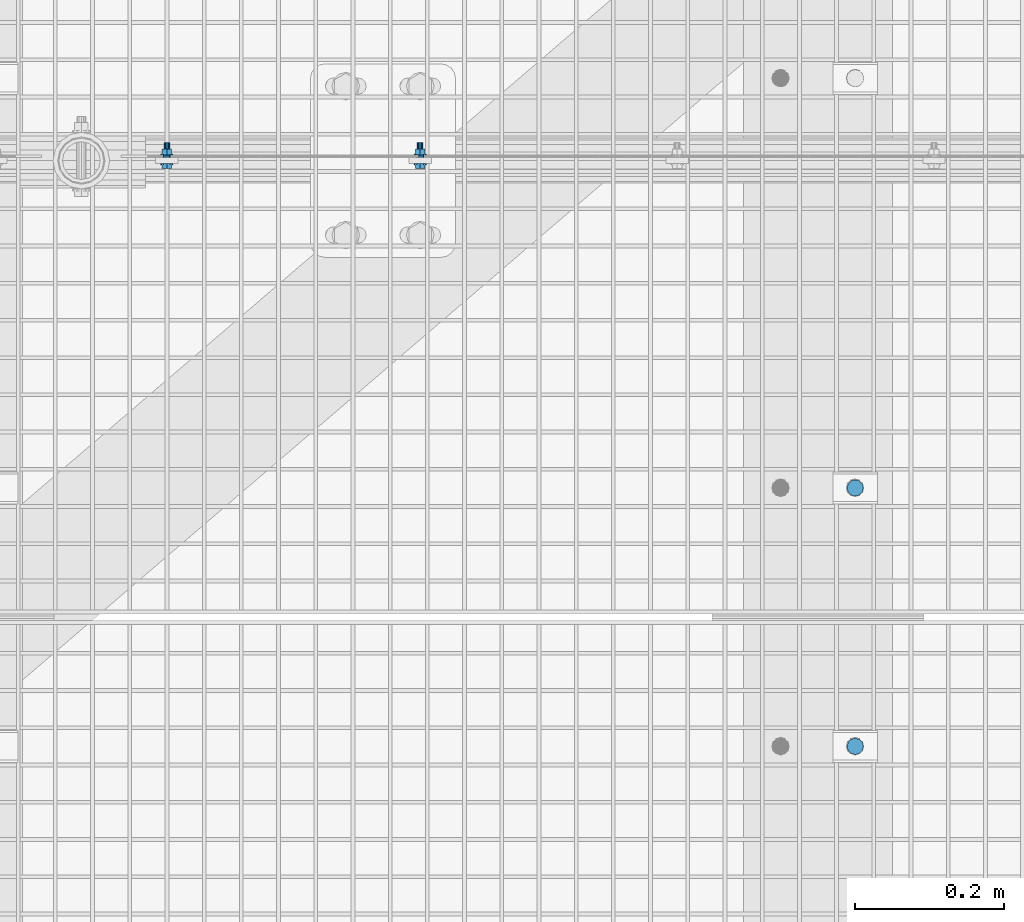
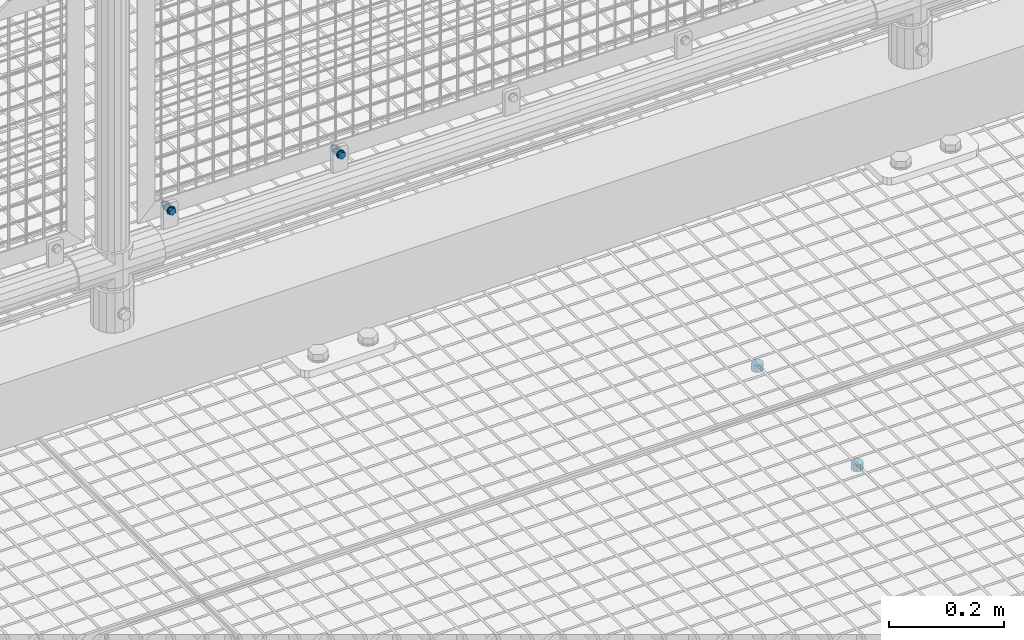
# One storey, part 82 of 1530: 4 mechanical fasteners.
"""IFC2X3 building model written with IfcOpenShell, lengths in millimetres."""

from ifc_helpers import new_model, si_unit, frame, origin_with_axes, place, context, subcontext, project, spatial, faceted_brep, source, transform, mapped, material, type_object, element, save


model = new_model("IFC2X3")

# Units and contexts
model_context = context("Model", 3, precision=1e-05, world=origin_with_axes())
body_context = subcontext(model_context, "Body", "Model", "MODEL_VIEW")
ifc_project = project(units=[si_unit("LENGTHUNIT", "METRE", prefix="MILLI"), si_unit("AREAUNIT", "SQUARE_METRE"), si_unit("VOLUMEUNIT", "CUBIC_METRE"), si_unit("MASSUNIT", "GRAM", prefix="KILO"), si_unit("TIMEUNIT", "SECOND"), si_unit("PLANEANGLEUNIT", "RADIAN"), si_unit("SOLIDANGLEUNIT", "STERADIAN"), si_unit("THERMODYNAMICTEMPERATUREUNIT", "DEGREE_CELSIUS"), si_unit("LUMINOUSINTENSITYUNIT", "LUMEN")], contexts=[model_context])

# Site, building, storey
site_placement = place(None, origin_with_axes())
site = spatial("IfcSite", under=ifc_project, at=site_placement, Name="Brattvåg", CompositionType="ELEMENT")
building_placement = place(site_placement, origin_with_axes())
building = spatial("IfcBuilding", under=site, at=building_placement, Name="Undefined", CompositionType="ELEMENT")
storey_placement = place(building_placement, origin_with_axes())
storey = spatial("IfcBuildingStorey", under=building, at=storey_placement, Name="Undefined", CompositionType="ELEMENT", Elevation=0.0)

# Mechanical fasteners
ifc_material = material(Name="8")
mechanical_fastener_type = type_object("IfcMechanicalFastenerType", Name="Bolt assembly")
shared_shape_1 = source(origin_with_axes(), body_context, "Body", "Brep", [
    faceted_brep([(11.0, -4.99999999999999, 0.0), (9.52627944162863, -4.99999999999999, 5.50000000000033), (5.49999999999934, -4.99999999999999, 9.5262794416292), (-1.13996957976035e-12, -4.99999999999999, 11.0), (-5.50000000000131, -4.99999999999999, 9.52627944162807), (-9.52627944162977, -4.99999999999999, 5.49999999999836), (-11.0, -4.99999999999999, -2.27993915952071e-12), (-9.5262794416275, -4.99999999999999, -5.5000000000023), (-5.49999999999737, -4.99999999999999, -9.52627944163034), (3.40769628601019e-12, -4.99999999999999, -11.0), (5.50000000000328, -4.99999999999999, -9.52627944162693), (9.52627944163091, -4.99999999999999, -5.49999999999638), (9.52627944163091, 10.1, -5.49999999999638), (5.50000000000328, 10.1, -9.52627944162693), (3.40769628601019e-12, 10.1, -11.0), (-5.49999999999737, 10.1, -9.52627944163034), (-9.5262794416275, 10.1, -5.5000000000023), (-11.0, 10.1, -2.27993915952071e-12), (-9.52627944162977, 10.1, 5.49999999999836), (-5.50000000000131, 10.1, 9.52627944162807), (-1.13996957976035e-12, 10.1, 11.0), (5.49999999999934, 10.1, 9.5262794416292), (9.52627944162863, 10.1, 5.50000000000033), (11.0, 10.1, 0.0)], [[[0, 1, 2, 3, 4, 5, 6, 7, 8, 9, 10, 11]], [[12, 13, 14, 15, 16, 17, 18, 19, 20, 21, 22, 23]], [[0, 23, 22, 1]], [[1, 22, 21, 2]], [[2, 21, 20, 3]], [[3, 20, 19, 4]], [[4, 19, 18, 5]], [[5, 18, 17, 6]], [[6, 17, 16, 7]], [[7, 16, 15, 8]], [[8, 15, 14, 9]], [[9, 14, 13, 10]], [[10, 13, 12, 11]], [[11, 12, 23, 0]]]),
])
for number, where, z_axis, x_axis, name in (
    (1, (6460.01192543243, 7224.99, -35.0), (0.0, -1.0, 0.0), (-1.0, 1.99999855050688e-09, 0.0), "Bolt assembly"),
    (2, (6460.01456069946, 6877.99565124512, -35.0), (0.0, -1.0, 0.0), (-1.0, 1.99999855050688e-09, 0.0), "Bolt assembly"),
):
    element("IfcMechanicalFastener", number, at=place(storey_placement, frame(where, z_axis=z_axis, x_axis=x_axis)), inside=storey, type_object=mechanical_fastener_type, material=ifc_material, Name=name, NominalDiameter=20.0, NominalLength=15.0, context=body_context, shape_type="MappedRepresentation", body=[
        mapped(shared_shape_1, transform((0.0, 0.0, 0.0))),
    ])
shared_shape_2 = source(origin_with_axes(), body_context, "Body", "Brep", [
    faceted_brep([(7.50555349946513, -6.899000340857, 0.0), (3.75277674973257, -6.899000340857, 6.5), (-3.75277674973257, -6.899000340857, 6.5), (-7.50555349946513, -6.899000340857, 9.19165206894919e-16), (-3.75277674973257, -6.899000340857, -6.5), (3.75277674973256, -6.899000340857, -6.5), (3.75277674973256, -1.59900015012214, -6.5), (-3.75277674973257, -1.59900015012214, -6.5), (-7.50555349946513, -1.59900015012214, 9.19165206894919e-16), (-3.75277674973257, -1.59900015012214, 6.5), (3.75277674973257, -1.59900015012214, 6.5), (7.50555349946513, -1.59900015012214, 0.0), (4.0, -1.59900015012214, 0.0), (3.46410161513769, -1.59900015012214, 2.00000000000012), (1.99999999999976, -1.59900015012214, 3.46410161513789), (-4.14534392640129e-13, -1.59900015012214, 4.0), (-2.00000000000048, -1.59900015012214, 3.46410161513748), (-3.4641016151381, -1.59900015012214, 1.9999999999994), (-4.0, -1.59900015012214, -8.29068785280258e-13), (-3.46410161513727, -1.59900015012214, -2.00000000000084), (-1.99999999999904, -1.59900015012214, -3.46410161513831), (1.23916228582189e-12, -1.59900015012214, -4.0), (2.00000000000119, -1.59900015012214, -3.46410161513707), (3.46410161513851, -1.59900015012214, -1.99999999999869), (3.46410161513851, 28.4009998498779, -1.99999999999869), (2.00000000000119, 28.4009998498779, -3.46410161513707), (1.23916228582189e-12, 28.4009998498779, -4.0), (-1.99999999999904, 28.4009998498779, -3.46410161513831), (-3.46410161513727, 28.4009998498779, -2.00000000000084), (-4.0, 28.4009998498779, -8.29068785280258e-13), (-3.4641016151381, 28.4009998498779, 1.9999999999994), (-2.00000000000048, 28.4009998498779, 3.46410161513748), (-4.14534392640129e-13, 28.4009998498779, 4.0), (1.99999999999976, 28.4009998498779, 3.46410161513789), (3.46410161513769, 28.4009998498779, 2.00000000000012), (4.0, 28.4009998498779, 0.0), (8.5, -1.59900015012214, 0.0), (7.36121593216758, -1.59900015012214, 4.25000000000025), (4.24999999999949, -1.59900015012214, 7.36121593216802), (-8.80885584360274e-13, -1.59900015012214, 8.5), (-4.25000000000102, -1.59900015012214, 7.36121593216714), (-7.36121593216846, -1.59900015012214, 4.24999999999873), (-8.5, -1.59900015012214, -1.76177116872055e-12), (-7.3612159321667, -1.59900015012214, -4.25000000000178), (-4.24999999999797, -1.59900015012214, -7.3612159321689), (2.63321985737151e-12, -1.59900015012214, -8.5), (4.25000000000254, -1.59900015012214, -7.36121593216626), (7.36121593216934, -1.59900015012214, -4.24999999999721), (7.36121593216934, 0.000999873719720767, -4.24999999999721), (4.25000000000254, 0.000999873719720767, -7.36121593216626), (2.63321985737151e-12, 0.000999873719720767, -8.5), (-4.24999999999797, 0.000999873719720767, -7.3612159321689), (-7.3612159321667, 0.000999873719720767, -4.25000000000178), (-8.5, 0.000999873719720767, -1.76177116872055e-12), (-7.36121593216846, 0.000999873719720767, 4.24999999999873), (-4.25000000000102, 0.000999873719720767, 7.36121593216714), (-8.80885584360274e-13, 0.000999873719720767, 8.5), (4.24999999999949, 0.000999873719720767, 7.36121593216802), (7.36121593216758, 0.000999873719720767, 4.25000000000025), (8.5, 0.000999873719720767, 0.0), (8.5, 11.5044159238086, 0.0), (7.36121593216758, 11.5044159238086, 4.25000000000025), (4.24999999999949, 11.5044159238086, 7.36121593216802), (-8.80885584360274e-13, 11.5044159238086, 8.5), (-4.25000000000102, 11.5044159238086, 7.36121593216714), (-7.36121593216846, 11.5044159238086, 4.24999999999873), (-8.5, 11.5044159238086, -1.76177116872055e-12), (-7.3612159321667, 11.5044159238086, -4.25000000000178), (-4.24999999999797, 11.5044159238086, -7.3612159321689), (2.63321985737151e-12, 11.5044159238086, -8.5), (4.25000000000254, 11.5044159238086, -7.36121593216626), (7.36121593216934, 11.5044159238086, -4.24999999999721), (7.36121593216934, 13.1044159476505, -4.24999999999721), (4.25000000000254, 13.1044159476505, -7.36121593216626), (2.63321985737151e-12, 13.1044159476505, -8.5), (-4.24999999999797, 13.1044159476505, -7.3612159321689), (-7.3612159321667, 13.1044159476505, -4.25000000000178), (-8.5, 13.1044159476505, -1.76177116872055e-12), (-7.36121593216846, 13.1044159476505, 4.24999999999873), (-4.25000000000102, 13.1044159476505, 7.36121593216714), (-8.80885584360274e-13, 13.1044159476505, 8.5), (4.24999999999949, 13.1044159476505, 7.36121593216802), (7.36121593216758, 13.1044159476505, 4.25000000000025), (8.5, 13.1044159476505, 0.0), (7.50555349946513, 13.1044159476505, 0.0), (3.75277674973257, 13.1044159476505, 6.5), (-3.75277674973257, 13.1044159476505, 6.5), (-7.50555349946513, 13.1044159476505, 9.19165206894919e-16), (-3.75277674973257, 13.1044159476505, -6.5), (3.75277674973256, 13.1044159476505, -6.5), (3.75277674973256, 19.9044161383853, -6.5), (-3.75277674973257, 19.9044161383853, -6.5), (-7.50555349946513, 19.9044161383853, 9.19165206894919e-16), (-3.75277674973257, 19.9044161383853, 6.5), (3.75277674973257, 19.9044161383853, 6.5), (7.50555349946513, 19.9044161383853, 0.0)], [[[0, 1, 2, 3, 4, 5]], [[6, 7, 8, 9, 10, 11]], [[0, 11, 10, 1]], [[1, 10, 9, 2]], [[2, 9, 8, 3]], [[3, 8, 7, 4]], [[4, 7, 6, 5]], [[5, 6, 11, 0]], [[12, 13, 14, 15, 16, 17, 18, 19, 20, 21, 22, 23]], [[24, 25, 26, 27, 28, 29, 30, 31, 32, 33, 34, 35]], [[12, 35, 34, 13]], [[13, 34, 33, 14]], [[14, 33, 32, 15]], [[15, 32, 31, 16]], [[16, 31, 30, 17]], [[17, 30, 29, 18]], [[18, 29, 28, 19]], [[19, 28, 27, 20]], [[20, 27, 26, 21]], [[21, 26, 25, 22]], [[22, 25, 24, 23]], [[23, 24, 35, 12]], [[36, 37, 38, 39, 40, 41, 42, 43, 44, 45, 46, 47]], [[48, 49, 50, 51, 52, 53, 54, 55, 56, 57, 58, 59]], [[36, 59, 58, 37]], [[37, 58, 57, 38]], [[38, 57, 56, 39]], [[39, 56, 55, 40]], [[40, 55, 54, 41]], [[41, 54, 53, 42]], [[42, 53, 52, 43]], [[43, 52, 51, 44]], [[44, 51, 50, 45]], [[45, 50, 49, 46]], [[46, 49, 48, 47]], [[47, 48, 59, 36]], [[60, 61, 62, 63, 64, 65, 66, 67, 68, 69, 70, 71]], [[72, 73, 74, 75, 76, 77, 78, 79, 80, 81, 82, 83]], [[60, 83, 82, 61]], [[61, 82, 81, 62]], [[62, 81, 80, 63]], [[63, 80, 79, 64]], [[64, 79, 78, 65]], [[65, 78, 77, 66]], [[66, 77, 76, 67]], [[67, 76, 75, 68]], [[68, 75, 74, 69]], [[69, 74, 73, 70]], [[70, 73, 72, 71]], [[71, 72, 83, 60]], [[84, 85, 86, 87, 88, 89]], [[90, 91, 92, 93, 94, 95]], [[84, 95, 94, 85]], [[85, 94, 93, 86]], [[86, 93, 92, 87]], [[87, 92, 91, 88]], [[88, 91, 90, 89]], [[89, 90, 95, 84]]]),
    faceted_brep([(5.0, 0.100999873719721, 0.0), (4.33012701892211, 0.100999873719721, 2.50000000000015), (2.4999999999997, 0.100999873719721, 4.33012701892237), (-5.18167990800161e-13, 0.100999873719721, 5.0), (-2.5000000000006, 0.100999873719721, 4.33012701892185), (-4.33012701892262, 0.100999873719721, 2.49999999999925), (-5.0, 0.100999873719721, -1.03633598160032e-12), (-4.33012701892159, 0.100999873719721, -2.50000000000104), (-2.49999999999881, 0.100999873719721, -4.33012701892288), (1.54895285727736e-12, 0.100999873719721, -5.0), (2.50000000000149, 0.100999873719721, -4.33012701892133), (4.33012701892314, 0.100999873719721, -2.49999999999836), (4.33012701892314, 8.10099988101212, -2.49999999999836), (2.50000000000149, 8.10099988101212, -4.33012701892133), (1.54895285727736e-12, 8.10099988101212, -5.0), (-2.49999999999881, 8.10099988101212, -4.33012701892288), (-4.33012701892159, 8.10099988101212, -2.50000000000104), (-5.0, 8.10099988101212, -1.03633598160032e-12), (-4.33012701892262, 8.10099988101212, 2.49999999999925), (-2.5000000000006, 8.10099988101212, 4.33012701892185), (-5.18167990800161e-13, 8.10099988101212, 5.0), (2.4999999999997, 8.10099988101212, 4.33012701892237), (4.33012701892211, 8.10099988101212, 2.50000000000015), (5.0, 8.10099988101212, 0.0), (5.0, 8.40441592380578, 0.0), (4.33012701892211, 8.40441592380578, 2.50000000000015), (2.4999999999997, 8.40441592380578, 4.33012701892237), (-5.18167990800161e-13, 8.40441592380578, 5.0), (-2.5000000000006, 8.40441592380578, 4.33012701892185), (-4.33012701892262, 8.40441592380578, 2.49999999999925), (-5.0, 8.40441592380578, -1.03633598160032e-12), (-4.33012701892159, 8.40441592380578, -2.50000000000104), (-2.49999999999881, 8.40441592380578, -4.33012701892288), (1.54895285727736e-12, 8.40441592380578, -5.0), (2.50000000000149, 8.40441592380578, -4.33012701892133), (4.33012701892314, 8.40441592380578, -2.49999999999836), (4.33012701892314, 11.5044159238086, -2.49999999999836), (2.50000000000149, 11.5044159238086, -4.33012701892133), (1.54895285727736e-12, 11.5044159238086, -5.0), (-2.49999999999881, 11.5044159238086, -4.33012701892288), (-4.33012701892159, 11.5044159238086, -2.50000000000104), (-5.0, 11.5044159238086, -1.03633598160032e-12), (-4.33012701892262, 11.5044159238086, 2.49999999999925), (-2.5000000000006, 11.5044159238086, 4.33012701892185), (-5.18167990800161e-13, 11.5044159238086, 5.0), (2.4999999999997, 11.5044159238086, 4.33012701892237), (4.33012701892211, 11.5044159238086, 2.50000000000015), (5.0, 11.5044159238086, 0.0)], [[[0, 1, 2, 3, 4, 5, 6, 7, 8, 9, 10, 11]], [[12, 13, 14, 15, 16, 17, 18, 19, 20, 21, 22, 23]], [[0, 23, 22, 1]], [[1, 22, 21, 2]], [[2, 21, 20, 3]], [[3, 20, 19, 4]], [[4, 19, 18, 5]], [[5, 18, 17, 6]], [[6, 17, 16, 7]], [[7, 16, 15, 8]], [[8, 15, 14, 9]], [[9, 14, 13, 10]], [[10, 13, 12, 11]], [[11, 12, 23, 0]], [[24, 25, 26, 27, 28, 29, 30, 31, 32, 33, 34, 35]], [[36, 37, 38, 39, 40, 41, 42, 43, 44, 45, 46, 47]], [[24, 47, 46, 25]], [[25, 46, 45, 26]], [[26, 45, 44, 27]], [[27, 44, 43, 28]], [[28, 43, 42, 29]], [[29, 42, 41, 30]], [[30, 41, 40, 31]], [[31, 40, 39, 32]], [[32, 39, 38, 33]], [[33, 38, 37, 34]], [[34, 37, 36, 35]], [[35, 36, 47, 24]]]),
])
mechanical_fastener_1_placement = place(storey_placement, frame((5535.85060882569, 7660.49843978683, 352.299672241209), z_axis=(-1.0, 1.99999855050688e-09, 0.0), x_axis=(0.0, 0.0, 1.0)))
element("IfcMechanicalFastener", 3, at=mechanical_fastener_1_placement, inside=storey, type_object=mechanical_fastener_type, material=ifc_material, Name="Bolt assembly", NominalDiameter=8.0, NominalLength=30.0, context=body_context, shape_type="MappedRepresentation", body=[
    mapped(shared_shape_2, transform((0.0, 0.0, 0.0))),
])
shared_shape_3 = source(origin_with_axes(), body_context, "Body", "Brep", [
    faceted_brep([(7.50555349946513, -6.899000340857, 0.0), (3.75277674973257, -6.899000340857, 6.5), (-3.75277674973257, -6.899000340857, 6.5), (-7.50555349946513, -6.899000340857, 9.19165206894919e-16), (-3.75277674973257, -6.899000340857, -6.5), (3.75277674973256, -6.899000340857, -6.5), (3.75277674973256, -1.59900015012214, -6.5), (-3.75277674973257, -1.59900015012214, -6.5), (-7.50555349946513, -1.59900015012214, 9.19165206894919e-16), (-3.75277674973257, -1.59900015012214, 6.5), (3.75277674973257, -1.59900015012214, 6.5), (7.50555349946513, -1.59900015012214, 0.0), (4.0, -1.59900015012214, 0.0), (3.46410161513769, -1.59900015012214, 2.00000000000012), (1.99999999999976, -1.59900015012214, 3.46410161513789), (-4.14534392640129e-13, -1.59900015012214, 4.0), (-2.00000000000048, -1.59900015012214, 3.46410161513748), (-3.4641016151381, -1.59900015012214, 1.9999999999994), (-4.0, -1.59900015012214, -8.29068785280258e-13), (-3.46410161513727, -1.59900015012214, -2.00000000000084), (-1.99999999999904, -1.59900015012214, -3.46410161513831), (1.23916228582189e-12, -1.59900015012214, -4.0), (2.00000000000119, -1.59900015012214, -3.46410161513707), (3.46410161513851, -1.59900015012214, -1.99999999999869), (3.46410161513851, 28.4009998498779, -1.99999999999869), (2.00000000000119, 28.4009998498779, -3.46410161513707), (1.23916228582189e-12, 28.4009998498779, -4.0), (-1.99999999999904, 28.4009998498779, -3.46410161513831), (-3.46410161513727, 28.4009998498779, -2.00000000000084), (-4.0, 28.4009998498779, -8.29068785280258e-13), (-3.4641016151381, 28.4009998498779, 1.9999999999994), (-2.00000000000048, 28.4009998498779, 3.46410161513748), (-4.14534392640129e-13, 28.4009998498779, 4.0), (1.99999999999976, 28.4009998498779, 3.46410161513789), (3.46410161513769, 28.4009998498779, 2.00000000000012), (4.0, 28.4009998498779, 0.0), (8.5, -1.59900015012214, 0.0), (7.36121593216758, -1.59900015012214, 4.25000000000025), (4.24999999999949, -1.59900015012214, 7.36121593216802), (-8.80885584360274e-13, -1.59900015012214, 8.5), (-4.25000000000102, -1.59900015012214, 7.36121593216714), (-7.36121593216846, -1.59900015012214, 4.24999999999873), (-8.5, -1.59900015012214, -1.76177116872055e-12), (-7.3612159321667, -1.59900015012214, -4.25000000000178), (-4.24999999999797, -1.59900015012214, -7.3612159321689), (2.63321985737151e-12, -1.59900015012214, -8.5), (4.25000000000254, -1.59900015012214, -7.36121593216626), (7.36121593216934, -1.59900015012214, -4.24999999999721), (7.36121593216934, 0.000999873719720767, -4.24999999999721), (4.25000000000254, 0.000999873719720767, -7.36121593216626), (2.63321985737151e-12, 0.000999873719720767, -8.5), (-4.24999999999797, 0.000999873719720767, -7.3612159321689), (-7.3612159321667, 0.000999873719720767, -4.25000000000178), (-8.5, 0.000999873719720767, -1.76177116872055e-12), (-7.36121593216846, 0.000999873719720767, 4.24999999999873), (-4.25000000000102, 0.000999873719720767, 7.36121593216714), (-8.80885584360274e-13, 0.000999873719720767, 8.5), (4.24999999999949, 0.000999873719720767, 7.36121593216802), (7.36121593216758, 0.000999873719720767, 4.25000000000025), (8.5, 0.000999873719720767, 0.0), (8.5, 11.5039814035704, 0.0), (7.36121593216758, 11.5039814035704, 4.25000000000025), (4.24999999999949, 11.5039814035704, 7.36121593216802), (-8.80885584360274e-13, 11.5039814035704, 8.5), (-4.25000000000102, 11.5039814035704, 7.36121593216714), (-7.36121593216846, 11.5039814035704, 4.24999999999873), (-8.5, 11.5039814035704, -1.76177116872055e-12), (-7.3612159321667, 11.5039814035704, -4.25000000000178), (-4.24999999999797, 11.5039814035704, -7.3612159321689), (2.63321985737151e-12, 11.5039814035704, -8.5), (4.25000000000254, 11.5039814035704, -7.36121593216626), (7.36121593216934, 11.5039814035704, -4.24999999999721), (7.36121593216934, 13.1039814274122, -4.24999999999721), (4.25000000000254, 13.1039814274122, -7.36121593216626), (2.63321985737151e-12, 13.1039814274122, -8.5), (-4.24999999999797, 13.1039814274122, -7.3612159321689), (-7.3612159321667, 13.1039814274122, -4.25000000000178), (-8.5, 13.1039814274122, -1.76177116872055e-12), (-7.36121593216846, 13.1039814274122, 4.24999999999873), (-4.25000000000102, 13.1039814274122, 7.36121593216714), (-8.80885584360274e-13, 13.1039814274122, 8.5), (4.24999999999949, 13.1039814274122, 7.36121593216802), (7.36121593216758, 13.1039814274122, 4.25000000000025), (8.5, 13.1039814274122, 0.0), (7.50555349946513, 13.1039814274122, 0.0), (3.75277674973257, 13.1039814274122, 6.5), (-3.75277674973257, 13.1039814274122, 6.5), (-7.50555349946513, 13.1039814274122, 9.19165206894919e-16), (-3.75277674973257, 13.1039814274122, -6.5), (3.75277674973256, 13.1039814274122, -6.5), (3.75277674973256, 19.9039816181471, -6.5), (-3.75277674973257, 19.9039816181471, -6.5), (-7.50555349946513, 19.9039816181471, 9.19165206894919e-16), (-3.75277674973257, 19.9039816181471, 6.5), (3.75277674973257, 19.9039816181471, 6.5), (7.50555349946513, 19.9039816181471, 0.0)], [[[0, 1, 2, 3, 4, 5]], [[6, 7, 8, 9, 10, 11]], [[0, 11, 10, 1]], [[1, 10, 9, 2]], [[2, 9, 8, 3]], [[3, 8, 7, 4]], [[4, 7, 6, 5]], [[5, 6, 11, 0]], [[12, 13, 14, 15, 16, 17, 18, 19, 20, 21, 22, 23]], [[24, 25, 26, 27, 28, 29, 30, 31, 32, 33, 34, 35]], [[12, 35, 34, 13]], [[13, 34, 33, 14]], [[14, 33, 32, 15]], [[15, 32, 31, 16]], [[16, 31, 30, 17]], [[17, 30, 29, 18]], [[18, 29, 28, 19]], [[19, 28, 27, 20]], [[20, 27, 26, 21]], [[21, 26, 25, 22]], [[22, 25, 24, 23]], [[23, 24, 35, 12]], [[36, 37, 38, 39, 40, 41, 42, 43, 44, 45, 46, 47]], [[48, 49, 50, 51, 52, 53, 54, 55, 56, 57, 58, 59]], [[36, 59, 58, 37]], [[37, 58, 57, 38]], [[38, 57, 56, 39]], [[39, 56, 55, 40]], [[40, 55, 54, 41]], [[41, 54, 53, 42]], [[42, 53, 52, 43]], [[43, 52, 51, 44]], [[44, 51, 50, 45]], [[45, 50, 49, 46]], [[46, 49, 48, 47]], [[47, 48, 59, 36]], [[60, 61, 62, 63, 64, 65, 66, 67, 68, 69, 70, 71]], [[72, 73, 74, 75, 76, 77, 78, 79, 80, 81, 82, 83]], [[60, 83, 82, 61]], [[61, 82, 81, 62]], [[62, 81, 80, 63]], [[63, 80, 79, 64]], [[64, 79, 78, 65]], [[65, 78, 77, 66]], [[66, 77, 76, 67]], [[67, 76, 75, 68]], [[68, 75, 74, 69]], [[69, 74, 73, 70]], [[70, 73, 72, 71]], [[71, 72, 83, 60]], [[84, 85, 86, 87, 88, 89]], [[90, 91, 92, 93, 94, 95]], [[84, 95, 94, 85]], [[85, 94, 93, 86]], [[86, 93, 92, 87]], [[87, 92, 91, 88]], [[88, 91, 90, 89]], [[89, 90, 95, 84]]]),
    faceted_brep([(5.0, 0.100999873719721, 0.0), (4.33012701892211, 0.100999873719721, 2.50000000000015), (2.4999999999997, 0.100999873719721, 4.33012701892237), (-5.18167990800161e-13, 0.100999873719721, 5.0), (-2.5000000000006, 0.100999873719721, 4.33012701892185), (-4.33012701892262, 0.100999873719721, 2.49999999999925), (-5.0, 0.100999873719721, -1.03633598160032e-12), (-4.33012701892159, 0.100999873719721, -2.50000000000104), (-2.49999999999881, 0.100999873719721, -4.33012701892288), (1.54895285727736e-12, 0.100999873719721, -5.0), (2.50000000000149, 0.100999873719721, -4.33012701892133), (4.33012701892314, 0.100999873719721, -2.49999999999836), (4.33012701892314, 8.10099988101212, -2.49999999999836), (2.50000000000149, 8.10099988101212, -4.33012701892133), (1.54895285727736e-12, 8.10099988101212, -5.0), (-2.49999999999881, 8.10099988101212, -4.33012701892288), (-4.33012701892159, 8.10099988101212, -2.50000000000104), (-5.0, 8.10099988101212, -1.03633598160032e-12), (-4.33012701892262, 8.10099988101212, 2.49999999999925), (-2.5000000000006, 8.10099988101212, 4.33012701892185), (-5.18167990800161e-13, 8.10099988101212, 5.0), (2.4999999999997, 8.10099988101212, 4.33012701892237), (4.33012701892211, 8.10099988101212, 2.50000000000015), (5.0, 8.10099988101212, 0.0), (5.0, 8.40398140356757, 0.0), (4.33012701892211, 8.40398140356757, 2.50000000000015), (2.4999999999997, 8.40398140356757, 4.33012701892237), (-5.18167990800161e-13, 8.40398140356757, 5.0), (-2.5000000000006, 8.40398140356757, 4.33012701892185), (-4.33012701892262, 8.40398140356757, 2.49999999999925), (-5.0, 8.40398140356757, -1.03633598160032e-12), (-4.33012701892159, 8.40398140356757, -2.50000000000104), (-2.49999999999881, 8.40398140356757, -4.33012701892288), (1.54895285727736e-12, 8.40398140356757, -5.0), (2.50000000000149, 8.40398140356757, -4.33012701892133), (4.33012701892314, 8.40398140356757, -2.49999999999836), (4.33012701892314, 11.5039814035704, -2.49999999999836), (2.50000000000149, 11.5039814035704, -4.33012701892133), (1.54895285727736e-12, 11.5039814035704, -5.0), (-2.49999999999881, 11.5039814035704, -4.33012701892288), (-4.33012701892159, 11.5039814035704, -2.50000000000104), (-5.0, 11.5039814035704, -1.03633598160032e-12), (-4.33012701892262, 11.5039814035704, 2.49999999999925), (-2.5000000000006, 11.5039814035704, 4.33012701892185), (-5.18167990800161e-13, 11.5039814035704, 5.0), (2.4999999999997, 11.5039814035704, 4.33012701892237), (4.33012701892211, 11.5039814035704, 2.50000000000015), (5.0, 11.5039814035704, 0.0)], [[[0, 1, 2, 3, 4, 5, 6, 7, 8, 9, 10, 11]], [[12, 13, 14, 15, 16, 17, 18, 19, 20, 21, 22, 23]], [[0, 23, 22, 1]], [[1, 22, 21, 2]], [[2, 21, 20, 3]], [[3, 20, 19, 4]], [[4, 19, 18, 5]], [[5, 18, 17, 6]], [[6, 17, 16, 7]], [[7, 16, 15, 8]], [[8, 15, 14, 9]], [[9, 14, 13, 10]], [[10, 13, 12, 11]], [[11, 12, 23, 0]], [[24, 25, 26, 27, 28, 29, 30, 31, 32, 33, 34, 35]], [[36, 37, 38, 39, 40, 41, 42, 43, 44, 45, 46, 47]], [[24, 47, 46, 25]], [[25, 46, 45, 26]], [[26, 45, 44, 27]], [[27, 44, 43, 28]], [[28, 43, 42, 29]], [[29, 42, 41, 30]], [[30, 41, 40, 31]], [[31, 40, 39, 32]], [[32, 39, 38, 33]], [[33, 38, 37, 34]], [[34, 37, 36, 35]], [[35, 36, 47, 24]]]),
])
mechanical_fastener_2_placement = place(storey_placement, frame((5875.85076141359, 7660.49843978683, 352.299672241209), z_axis=(-1.0, 1.99999855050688e-09, 0.0), x_axis=(0.0, 0.0, 1.0)))
element("IfcMechanicalFastener", 4, at=mechanical_fastener_2_placement, inside=storey, type_object=mechanical_fastener_type, material=ifc_material, Name="Bolt assembly", NominalDiameter=8.0, NominalLength=30.0, context=body_context, shape_type="MappedRepresentation", body=[
    mapped(shared_shape_3, transform((0.0, 0.0, 0.0))),
])

save(model, "model.ifc")
